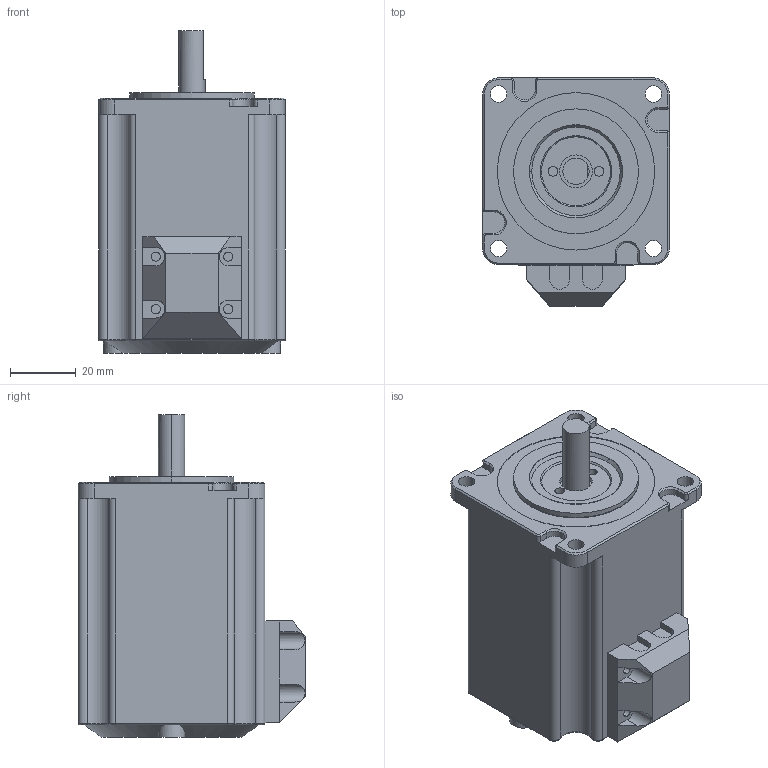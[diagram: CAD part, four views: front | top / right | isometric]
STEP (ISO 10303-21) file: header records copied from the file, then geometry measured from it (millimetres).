
FILE_DESCRIPTION((''),'2;1');
FILE_NAME('QL57HS56','2022-07-02T16:51:46',('qingl'),(''),'CREO PARAMETRIC BY PTC INC, 2019224','CREO PARAMETRIC BY PTC INC, 2019224','');
FILE_SCHEMA(('CONFIG_CONTROL_DESIGN'));
Length unit declared in the file: millimetre
Products named in the file (1): QL57HS56
Bounding box: 57 x 69.5 x 98.4 mm (x, y, z)
Volume: 231145.6 mm3; surface area: 25597 mm2
Topology: 1 solids, 1 shells, 311 faces, 838 edges, 548 vertices
Faces by surface type: cylinder 180, plane 89, cone 22, torus 12, bspline 8
Entity records: 13363 total; most frequent: CARTESIAN_POINT 5732, ORIENTED_EDGE 1676, DIRECTION 1468, EDGE_CURVE 838, AXIS2_PLACEMENT_3D 549, VERTEX_POINT 548, VECTOR 370, LINE 370
